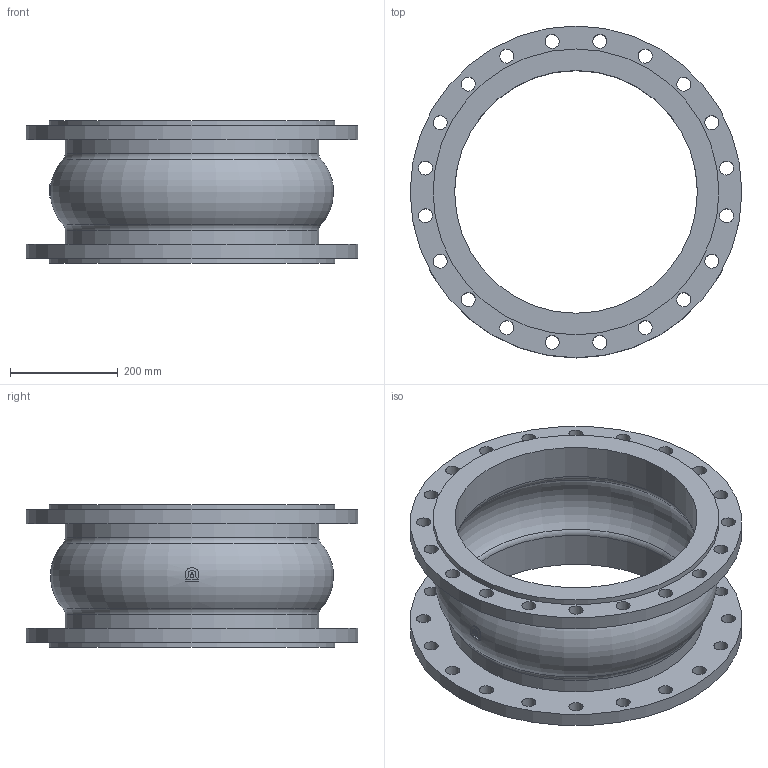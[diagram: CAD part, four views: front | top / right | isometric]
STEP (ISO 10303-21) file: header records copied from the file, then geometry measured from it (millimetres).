
FILE_DESCRIPTION(('STEP AP203'), '1');
FILE_NAME('Êîìïåíñàòîð KMS DN450 PN10', '', ('UNSPECIFIED'), ('UNSPECIFIED'), 'ASCON STEP Converter 1.6', 'ASCON Math Kernel', '');
FILE_SCHEMA(('CONFIG_CONTROL_DESIGN'));
Length unit declared in the file: millimetre
Bounding box: 615 x 615 x 265 mm (x, y, z)
Volume: 10915814.7 mm3; surface area: 1430465.8 mm2
Topology: 1 solids, 1 shells, 77 faces, 196 edges, 128 vertices
Faces by surface type: cylinder 55, plane 13, torus 9
Full cylindrical faces by diameter (mm): 26 x40, 450 x2, 470 x2, 530 x2, 615 x2
Entity records: 3832 total; most frequent: CARTESIAN_POINT 1307, DIRECTION 382, ORIENTED_EDGE 284, EDGE_LOOP 220, AXIS2_PLACEMENT_3D 184, EDGE_CURVE 142, VERTEX_POINT 128, FACE_BOUND 112
